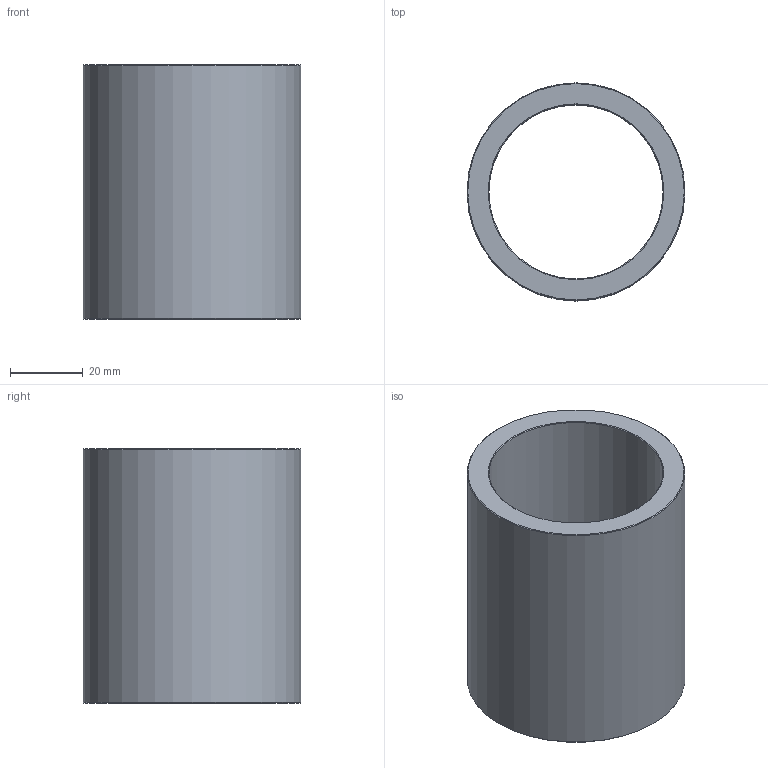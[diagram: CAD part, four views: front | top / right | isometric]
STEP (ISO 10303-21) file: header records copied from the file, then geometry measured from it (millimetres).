
FILE_DESCRIPTION(('STEP AP203'),'1');
FILE_NAME('C:/Users/Rodrigo/Desktop/GA6.048.070-1.step','2016-11-07T20:36:23',(' '),(' '),'Spatial InterOp 3D',' ',' ');
FILE_SCHEMA(('CONFIG_CONTROL_DESIGN'));
Length unit declared in the file: millimetre
Products named in the file (1): 1
Bounding box: 60 x 60 x 70 mm (x, y, z)
Volume: 71237.7 mm3; surface area: 25706.7 mm2
Topology: 1 solids, 1 shells, 8 faces, 14 edges, 8 vertices
Faces by surface type: cone 4, cylinder 2, plane 2
Full cylindrical faces by diameter (mm): 48 x1, 60 x1
Entity records: 212 total; most frequent: DIRECTION 34, CARTESIAN_POINT 25, AXIS2_PLACEMENT_3D 17, EDGE_LOOP 16, ORIENTED_EDGE 16, FACE_OUTER_BOUND 10, ADVANCED_FACE 8, EDGE_CURVE 8
